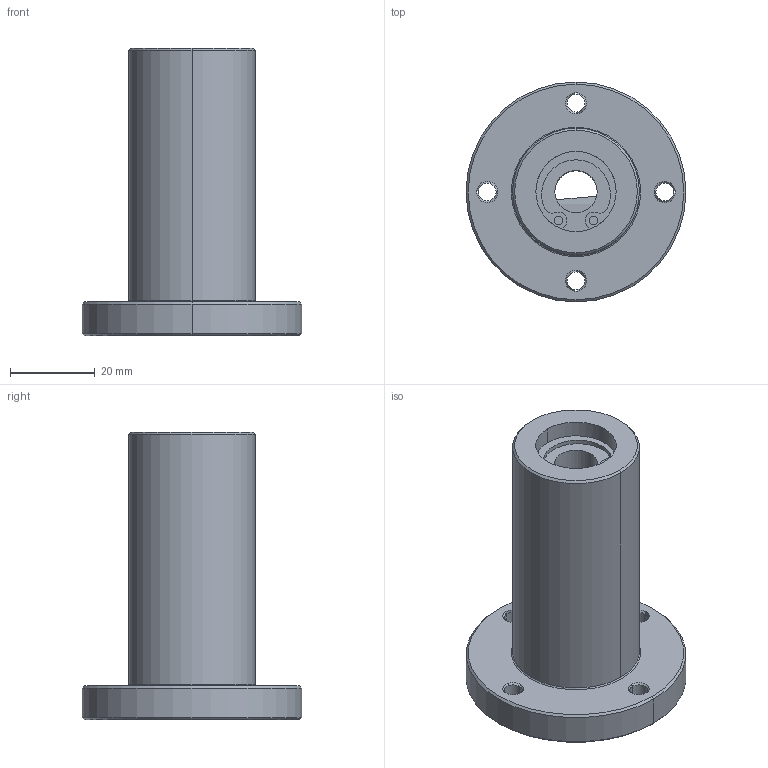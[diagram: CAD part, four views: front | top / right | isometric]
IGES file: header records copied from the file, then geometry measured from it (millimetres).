
Start section: 3D InterOp IGES (Version 21 0 1), Spatial Corp. Copyright (c) 1999-2007.
Global section: file name: LCFD-10AVUU.igs; native system: Spatial Corp.; preprocessor: 3D InterOp GENERIC/IGES 3.0; author: Noname; organization: Noname; date: 20220517.163427; units: millimetre
Bounding box: 52 x 52 x 68 mm (x, y, z)
Surface area: 13656.2 mm2 (no closed solid volume)
Topology: 0 solids, 0 shells, 80 faces, 386 edges, 386 vertices
Faces by surface type: revolution 68, extrusion 12
